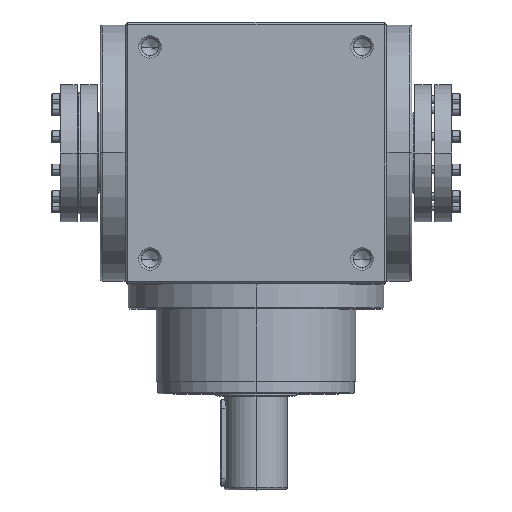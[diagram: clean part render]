
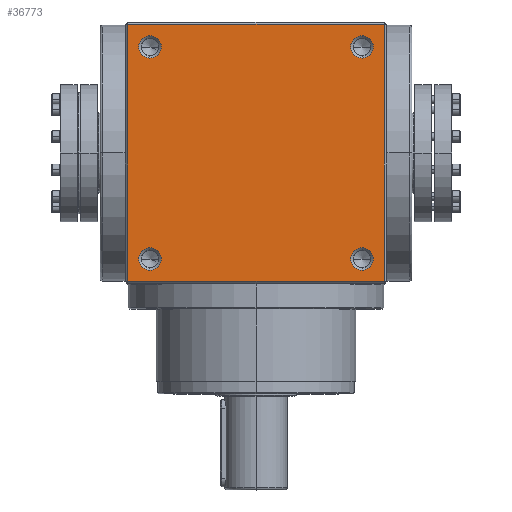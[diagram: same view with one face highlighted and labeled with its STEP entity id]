
A CAD part, top view. The second image highlights one B-rep face of the part: STEP entity #36773.
In plain terms, the highlighted planar face has unit normal (0, 0, 1).
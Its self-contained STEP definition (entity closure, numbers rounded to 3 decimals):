
#437 = VERTEX_POINT ( 'NONE', #1732 ) ;
#735 = EDGE_CURVE ( 'NONE', #437, #13209, #13453, .T. ) ;
#1345 = DIRECTION ( 'NONE',  ( 0., 0., 1. ) ) ;
#1386 = EDGE_CURVE ( 'NONE', #13209, #437, #47480, .T. ) ;
#1732 = CARTESIAN_POINT ( 'NONE',  ( -85., 76., 105. ) ) ;
#1891 = FACE_BOUND ( 'NONE', #17670, .T. ) ;
#1937 = CARTESIAN_POINT ( 'NONE',  ( 0., -103., 105. ) ) ;
#2078 = DIRECTION ( 'NONE',  ( 0., -1., 0. ) ) ;
#2513 = ORIENTED_EDGE ( 'NONE', *, *, #36744, .F. ) ;
#2988 = VERTEX_POINT ( 'NONE', #25449 ) ;
#3103 = EDGE_CURVE ( 'NONE', #15580, #49704, #41939, .T. ) ;
#3600 = VECTOR ( 'NONE', #21055, 1000. ) ;
#4584 = VERTEX_POINT ( 'NONE', #43617 ) ;
#4789 = AXIS2_PLACEMENT_3D ( 'NONE', #48264, #25077, #2078 ) ;
#4825 = CARTESIAN_POINT ( 'NONE',  ( 85., -94., 105. ) ) ;
#4828 = EDGE_CURVE ( 'NONE', #44039, #17169, #18800, .T. ) ;
#4905 = CARTESIAN_POINT ( 'NONE',  ( -85., 85., 105. ) ) ;
#5489 = AXIS2_PLACEMENT_3D ( 'NONE', #14360, #41429, #18240 ) ;
#6053 = EDGE_CURVE ( 'NONE', #49704, #15580, #48062, .T. ) ;
#6132 = AXIS2_PLACEMENT_3D ( 'NONE', #24366, #1345, #28253 ) ;
#6284 = DIRECTION ( 'NONE',  ( 0., 1., 0. ) ) ;
#7075 = CIRCLE ( 'NONE', #17116, 9. ) ;
#8262 = ORIENTED_EDGE ( 'NONE', *, *, #14115, .F. ) ;
#8490 = AXIS2_PLACEMENT_3D ( 'NONE', #34062, #10933, #37959 ) ;
#8688 = DIRECTION ( 'NONE',  ( 0., -1., 0. ) ) ;
#8985 = CARTESIAN_POINT ( 'NONE',  ( 85., 85., 105. ) ) ;
#9698 = ORIENTED_EDGE ( 'NONE', *, *, #48661, .F. ) ;
#10729 = CARTESIAN_POINT ( 'NONE',  ( -85., -85., 105. ) ) ;
#10836 = ORIENTED_EDGE ( 'NONE', *, *, #39140, .T. ) ;
#10933 = DIRECTION ( 'NONE',  ( 0., 0., 1. ) ) ;
#11617 = ORIENTED_EDGE ( 'NONE', *, *, #34804, .F. ) ;
#11850 = CIRCLE ( 'NONE', #33964, 9. ) ;
#12875 = DIRECTION ( 'NONE',  ( 0., -1., 0. ) ) ;
#13209 = VERTEX_POINT ( 'NONE', #22805 ) ;
#13453 = CIRCLE ( 'NONE', #21982, 9. ) ;
#14115 = EDGE_CURVE ( 'NONE', #2988, #25095, #40771, .T. ) ;
#14256 = CARTESIAN_POINT ( 'NONE',  ( 103., -103., 105. ) ) ;
#14360 = CARTESIAN_POINT ( 'NONE',  ( -85., -85., 105. ) ) ;
#14573 = DIRECTION ( 'NONE',  ( 0., -1., 0. ) ) ;
#15064 = CIRCLE ( 'NONE', #4789, 9. ) ;
#15339 = CARTESIAN_POINT ( 'NONE',  ( 103., 0., 105. ) ) ;
#15580 = VERTEX_POINT ( 'NONE', #4825 ) ;
#15670 = CARTESIAN_POINT ( 'NONE',  ( 0., 0., 105. ) ) ;
#17116 = AXIS2_PLACEMENT_3D ( 'NONE', #10729, #37740, #14573 ) ;
#17169 = VERTEX_POINT ( 'NONE', #19595 ) ;
#17483 = ORIENTED_EDGE ( 'NONE', *, *, #6053, .F. ) ;
#17670 = EDGE_LOOP ( 'NONE', ( #11617, #8262 ) ) ;
#17807 = EDGE_CURVE ( 'NONE', #43035, #44039, #28118, .T. ) ;
#18175 = EDGE_LOOP ( 'NONE', ( #9698, #33055 ) ) ;
#18240 = DIRECTION ( 'NONE',  ( 0., -1., 0. ) ) ;
#18650 = VECTOR ( 'NONE', #6284, 1000. ) ;
#18800 = LINE ( 'NONE', #44960, #18650 ) ;
#19586 = DIRECTION ( 'NONE',  ( -1., 0., 0. ) ) ;
#19595 = CARTESIAN_POINT ( 'NONE',  ( -103., 103., 105. ) ) ;
#20756 = ORIENTED_EDGE ( 'NONE', *, *, #3103, .F. ) ;
#21055 = DIRECTION ( 'NONE',  ( -1., 0., 0. ) ) ;
#21102 = FACE_OUTER_BOUND ( 'NONE', #41173, .T. ) ;
#21982 = AXIS2_PLACEMENT_3D ( 'NONE', #46073, #22901, #49985 ) ;
#22109 = LINE ( 'NONE', #41152, #42701 ) ;
#22335 = FACE_BOUND ( 'NONE', #50082, .T. ) ;
#22805 = CARTESIAN_POINT ( 'NONE',  ( -85., 94., 105. ) ) ;
#22901 = DIRECTION ( 'NONE',  ( 0., 0., 1. ) ) ;
#24366 = CARTESIAN_POINT ( 'NONE',  ( 85., -85., 105. ) ) ;
#25077 = DIRECTION ( 'NONE',  ( 0., 0., 1. ) ) ;
#25095 = VERTEX_POINT ( 'NONE', #38696 ) ;
#25449 = CARTESIAN_POINT ( 'NONE',  ( -85., -76., 105. ) ) ;
#28118 = LINE ( 'NONE', #1937, #3600 ) ;
#28174 = EDGE_LOOP ( 'NONE', ( #41383, #44717 ) ) ;
#28253 = DIRECTION ( 'NONE',  ( 0., -1., 0. ) ) ;
#30398 = ORIENTED_EDGE ( 'NONE', *, *, #4828, .F. ) ;
#31395 = FACE_BOUND ( 'NONE', #28174, .T. ) ;
#31837 = DIRECTION ( 'NONE',  ( 0., 0., 1. ) ) ;
#32599 = VECTOR ( 'NONE', #46183, 1000. ) ;
#33055 = ORIENTED_EDGE ( 'NONE', *, *, #45896, .F. ) ;
#33733 = CARTESIAN_POINT ( 'NONE',  ( 85., 94., 105. ) ) ;
#33964 = AXIS2_PLACEMENT_3D ( 'NONE', #8985, #36016, #12875 ) ;
#34062 = CARTESIAN_POINT ( 'NONE',  ( 85., -85., 105. ) ) ;
#34804 = EDGE_CURVE ( 'NONE', #25095, #2988, #7075, .T. ) ;
#36016 = DIRECTION ( 'NONE',  ( 0., 0., 1. ) ) ;
#36100 = CARTESIAN_POINT ( 'NONE',  ( -103., -103., 105. ) ) ;
#36744 = EDGE_CURVE ( 'NONE', #4584, #43035, #45360, .T. ) ;
#36773 = ADVANCED_FACE ( 'NONE', ( #22335, #1891, #41704, #31395, #21102 ), #42637, .F. ) ;
#36867 = CARTESIAN_POINT ( 'NONE',  ( 85., 76., 105. ) ) ;
#37740 = DIRECTION ( 'NONE',  ( 0., 0., 1. ) ) ;
#37959 = DIRECTION ( 'NONE',  ( 0., -1., 0. ) ) ;
#38696 = CARTESIAN_POINT ( 'NONE',  ( -85., -94., 105. ) ) ;
#39140 = EDGE_CURVE ( 'NONE', #4584, #17169, #22109, .T. ) ;
#39528 = CARTESIAN_POINT ( 'NONE',  ( 85., -76., 105. ) ) ;
#40259 = ORIENTED_EDGE ( 'NONE', *, *, #17807, .F. ) ;
#40769 = VERTEX_POINT ( 'NONE', #33733 ) ;
#40771 = CIRCLE ( 'NONE', #5489, 9. ) ;
#40981 = AXIS2_PLACEMENT_3D ( 'NONE', #15670, #42788, #19586 ) ;
#41152 = CARTESIAN_POINT ( 'NONE',  ( 0., 103., 105. ) ) ;
#41173 = EDGE_LOOP ( 'NONE', ( #2513, #10836, #30398, #40259 ) ) ;
#41383 = ORIENTED_EDGE ( 'NONE', *, *, #735, .F. ) ;
#41429 = DIRECTION ( 'NONE',  ( 0., 0., 1. ) ) ;
#41578 = VERTEX_POINT ( 'NONE', #36867 ) ;
#41704 = FACE_BOUND ( 'NONE', #18175, .T. ) ;
#41939 = CIRCLE ( 'NONE', #8490, 9. ) ;
#42637 = PLANE ( 'NONE',  #40981 ) ;
#42701 = VECTOR ( 'NONE', #45071, 1000. ) ;
#42788 = DIRECTION ( 'NONE',  ( 0., 0., -1. ) ) ;
#43035 = VERTEX_POINT ( 'NONE', #14256 ) ;
#43617 = CARTESIAN_POINT ( 'NONE',  ( 103., 103., 105. ) ) ;
#44039 = VERTEX_POINT ( 'NONE', #36100 ) ;
#44717 = ORIENTED_EDGE ( 'NONE', *, *, #1386, .F. ) ;
#44960 = CARTESIAN_POINT ( 'NONE',  ( -103., 0., 105. ) ) ;
#45071 = DIRECTION ( 'NONE',  ( -1., 0., 0. ) ) ;
#45360 = LINE ( 'NONE', #15339, #32599 ) ;
#45896 = EDGE_CURVE ( 'NONE', #40769, #41578, #11850, .T. ) ;
#46073 = CARTESIAN_POINT ( 'NONE',  ( -85., 85., 105. ) ) ;
#46183 = DIRECTION ( 'NONE',  ( 0., -1., 0. ) ) ;
#47480 = CIRCLE ( 'NONE', #47599, 9. ) ;
#47599 = AXIS2_PLACEMENT_3D ( 'NONE', #4905, #31837, #8688 ) ;
#48062 = CIRCLE ( 'NONE', #6132, 9. ) ;
#48264 = CARTESIAN_POINT ( 'NONE',  ( 85., 85., 105. ) ) ;
#48661 = EDGE_CURVE ( 'NONE', #41578, #40769, #15064, .T. ) ;
#49704 = VERTEX_POINT ( 'NONE', #39528 ) ;
#49985 = DIRECTION ( 'NONE',  ( 0., -1., 0. ) ) ;
#50082 = EDGE_LOOP ( 'NONE', ( #20756, #17483 ) ) ;
